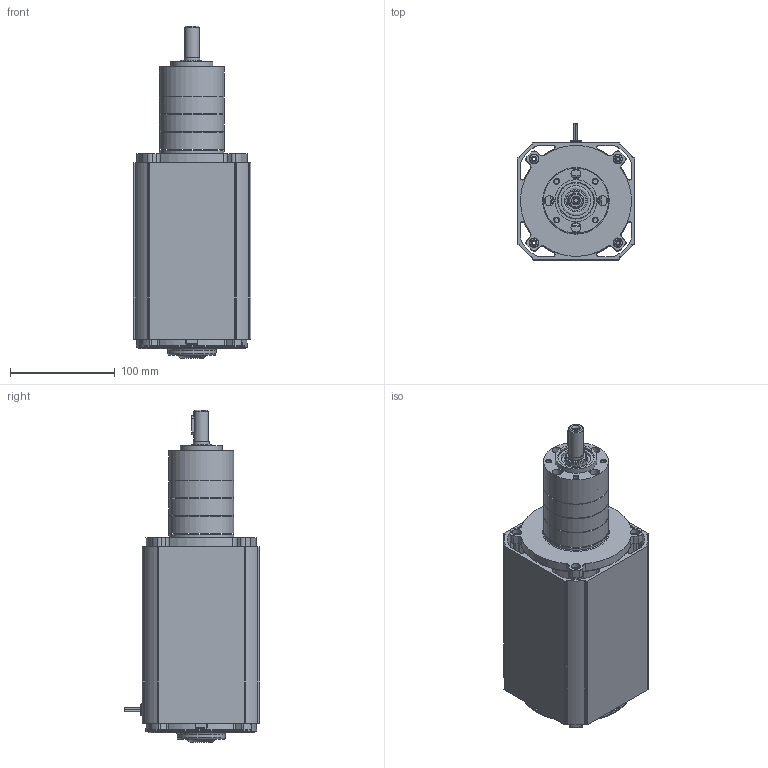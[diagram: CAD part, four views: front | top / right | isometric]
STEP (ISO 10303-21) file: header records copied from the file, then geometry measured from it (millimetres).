
FILE_DESCRIPTION (( 'STEP AP214' ), '1' );
FILE_NAME ('AC10080NV-PL6200i_3S.STEP', '2014-05-06T11:53:49', ( '' ), ( '' ), 'SwSTEP 2.0', 'SolidWorks 2014', '' );
FILE_SCHEMA (( 'AUTOMOTIVE_DESIGN' ));
Length unit declared in the file: inch
Products named in the file (1): AC10080NV-PL6200i_3S
Bounding box: 112.37 x 129.73 x 316.75 mm (x, y, z)
Surface area: 208129 mm2 (no closed solid volume)
Topology: 0 solids, 60 shells, 592 faces, 2412 edges, 1858 vertices
Faces by surface type: plane 231, cylinder 225, bspline 73, cone 33, torus 30
Full cylindrical faces by diameter (mm): 1.905 x4, 2 x2, 4.166 x8, 4.5 x4, 5.3 x1, 9.144 x8, 9.5 x4, 11.113 x1, 14 x1, 14.3 x1, 15 x1, 21 x1, 21.52 x1, 28.48 x1, 35.1 x1, 40 x1, 61.976 x1, 62 x4, 101.981 x1
Entity records: 37371 total; most frequent: CARTESIAN_POINT 11086, DIRECTION 3663, ORIENTED_EDGE 3355, EDGE_CURVE 2310, VERTEX_POINT 1841, AXIS2_PLACEMENT_3D 1296, LINE 1071, VECTOR 1071
